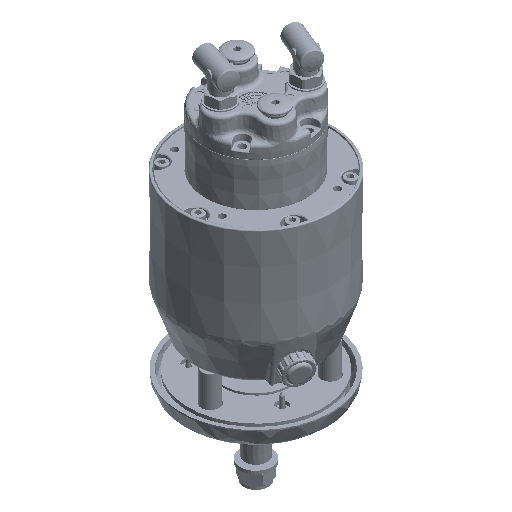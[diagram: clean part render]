
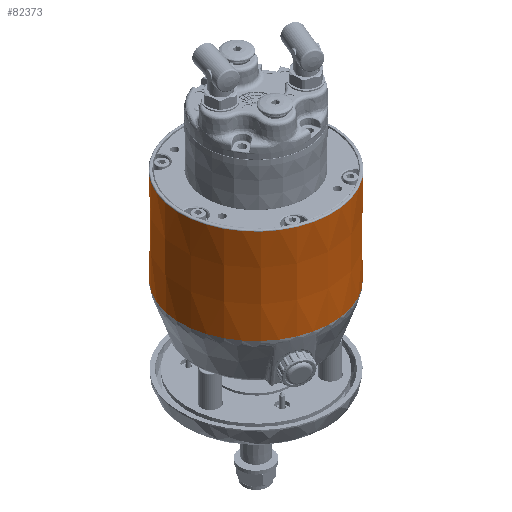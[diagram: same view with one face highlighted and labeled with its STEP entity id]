
A CAD part, isometric view. The second image highlights one B-rep face of the part: STEP entity #82373.
In plain terms, the highlighted conical face has half-angle 0.237 degrees and reference radius 57.345 mm.
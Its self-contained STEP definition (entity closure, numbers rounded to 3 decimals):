
#1154=CONICAL_SURFACE('',#90593,57.345,0.004);
#11494=LINE('',#172690,#16697);
#16697=VECTOR('',#109853,57.345);
#22853=FACE_OUTER_BOUND('',#28210,.T.);
#28210=EDGE_LOOP('',(#73075,#73076,#73077,#73078,#73079,#73080,#73081));
#31989=CIRCLE('',#90023,57.2);
#31990=CIRCLE('',#90024,57.2);
#31991=CIRCLE('',#90025,57.2);
#32330=CIRCLE('',#90594,57.497);
#32331=CIRCLE('',#90595,57.497);
#38995=VERTEX_POINT('',#162661);
#38996=VERTEX_POINT('',#162663);
#38997=VERTEX_POINT('',#162665);
#39413=VERTEX_POINT('',#172689);
#39414=VERTEX_POINT('',#172691);
#50023=EDGE_CURVE('',#38995,#38996,#31989,.T.);
#50024=EDGE_CURVE('',#38996,#38997,#31990,.T.);
#50025=EDGE_CURVE('',#38997,#38995,#31991,.T.);
#50849=EDGE_CURVE('',#38996,#39413,#11494,.T.);
#50850=EDGE_CURVE('',#39414,#39413,#32330,.T.);
#50851=EDGE_CURVE('',#39413,#39414,#32331,.T.);
#73075=ORIENTED_EDGE('',*,*,#50025,.F.);
#73076=ORIENTED_EDGE('',*,*,#50024,.F.);
#73077=ORIENTED_EDGE('',*,*,#50849,.T.);
#73078=ORIENTED_EDGE('',*,*,#50850,.F.);
#73079=ORIENTED_EDGE('',*,*,#50851,.F.);
#73080=ORIENTED_EDGE('',*,*,#50849,.F.);
#73081=ORIENTED_EDGE('',*,*,#50023,.F.);
#82373=ADVANCED_FACE('',(#22853),#1154,.T.);
#90023=AXIS2_PLACEMENT_3D('',#162664,#108636,#108637);
#90024=AXIS2_PLACEMENT_3D('',#162666,#108638,#108639);
#90025=AXIS2_PLACEMENT_3D('',#162667,#108640,#108641);
#90593=AXIS2_PLACEMENT_3D('',#172688,#109851,#109852);
#90594=AXIS2_PLACEMENT_3D('',#172692,#109854,#109855);
#90595=AXIS2_PLACEMENT_3D('',#172693,#109856,#109857);
#108636=DIRECTION('center_axis',(0.,0.,-1.));
#108637=DIRECTION('ref_axis',(0.,-1.,0.));
#108638=DIRECTION('center_axis',(0.,0.,-1.));
#108639=DIRECTION('ref_axis',(0.,-1.,0.));
#108640=DIRECTION('center_axis',(0.,0.,-1.));
#108641=DIRECTION('ref_axis',(0.,-1.,0.));
#109851=DIRECTION('center_axis',(0.,0.,1.));
#109852=DIRECTION('ref_axis',(0.,1.,0.));
#109853=DIRECTION('',(0.,-0.004,1.));
#109854=DIRECTION('center_axis',(0.,0.,1.));
#109855=DIRECTION('ref_axis',(0.,-1.,0.));
#109856=DIRECTION('center_axis',(0.,0.,1.));
#109857=DIRECTION('ref_axis',(0.,-1.,0.));
#162661=CARTESIAN_POINT('',(57.2,0.,-5.024));
#162663=CARTESIAN_POINT('',(0.,-57.2,-5.024));
#162664=CARTESIAN_POINT('Origin',(0.,0.,-5.024));
#162665=CARTESIAN_POINT('',(0.,57.2,-5.024));
#162666=CARTESIAN_POINT('Origin',(0.,0.,-5.024));
#162667=CARTESIAN_POINT('Origin',(0.,0.,-5.024));
#172688=CARTESIAN_POINT('Origin',(0.,0.,29.999));
#172689=CARTESIAN_POINT('',(0.,-57.497,66.747));
#172690=CARTESIAN_POINT('',(0.,-57.345,29.999));
#172691=CARTESIAN_POINT('',(57.497,0.,66.747));
#172692=CARTESIAN_POINT('Origin',(0.,0.,66.747));
#172693=CARTESIAN_POINT('Origin',(0.,0.,66.747));
